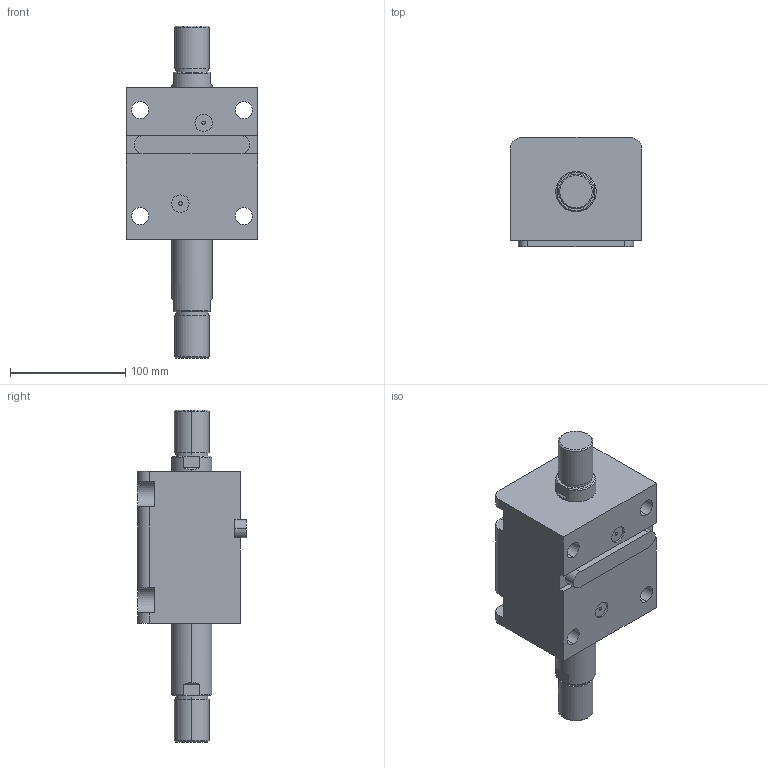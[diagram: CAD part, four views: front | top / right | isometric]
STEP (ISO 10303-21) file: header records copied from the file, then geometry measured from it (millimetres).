
FILE_DESCRIPTION (( 'STEP AP203' ), '1' );
FILE_NAME ('HTB-LWM63-50W.STEP', '2020-12-25T03:47:59', ( '微软用户' ), ( '微软中国' ), 'SwSTEP 2.0', 'SolidWorks 2012', '' );
FILE_SCHEMA (( 'CONFIG_CONTROL_DESIGN' ));
Length unit declared in the file: millimetre
Products named in the file (4): HTB-LWM63-50掛极; HTB-LWM63-50W; HTB-LWM63-50W活塞杆; HTB-LWM63-瑩
Assembly tree (3 placements, depth 2):
  HTB-LWM63-50W
    HTB-LWM63-50掛极
    HTB-LWM63-50W活塞杆
    HTB-LWM63-瑩
Bounding box: 114 x 94.5 x 288 mm (x, y, z)
Volume: 1282886.6 mm3; surface area: 155370.4 mm2
Topology: 3 solids, 3 shells, 113 faces, 273 edges, 178 vertices
Faces by surface type: cylinder 49, plane 48, torus 8, cone 8
Entity records: 3783 total; most frequent: CARTESIAN_POINT 626, DIRECTION 617, ORIENTED_EDGE 546, EDGE_CURVE 273, AXIS2_PLACEMENT_3D 241, VERTEX_POINT 178, EDGE_LOOP 135, LINE 135
